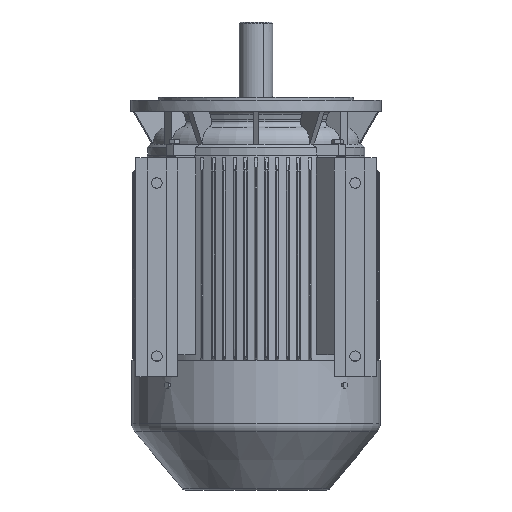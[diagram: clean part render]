
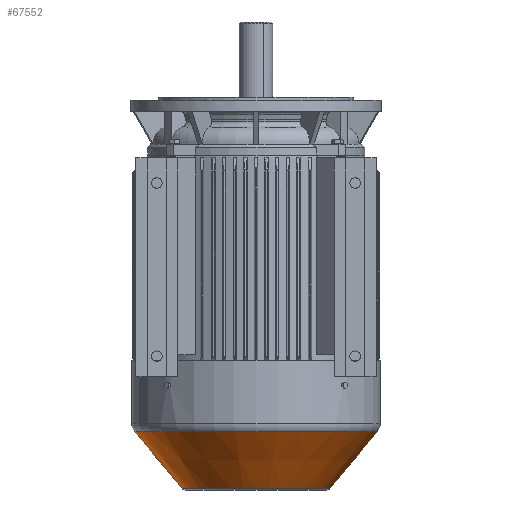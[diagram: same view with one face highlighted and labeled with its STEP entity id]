
A CAD part, front view. The second image highlights one B-rep face of the part: STEP entity #67552.
In plain terms, the highlighted conical face has half-angle 40 degrees and reference radius 132.173 mm.
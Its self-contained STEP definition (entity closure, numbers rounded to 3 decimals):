
#1660 = AXIS2_PLACEMENT_3D ( 'NONE', #7060, #7057, #7053 ) ;
#7053 = DIRECTION ( 'NONE',  ( 0., -1., 0. ) ) ;
#7057 = DIRECTION ( 'NONE',  ( -1., 0., 0. ) ) ;
#7060 = CARTESIAN_POINT ( 'NONE',  ( 230.41, 0., 0. ) ) ;
#32630 = CIRCLE ( 'NONE', #61036, 132.173 ) ;
#32632 = CIRCLE ( 'NONE', #61037, 217.853 ) ;
#32918 = LINE ( 'NONE', #83727, #32922 ) ;
#32922 = VECTOR ( 'NONE', #83720, 1000. ) ;
#33035 = LINE ( 'NONE', #75929, #33037 ) ;
#33037 = VECTOR ( 'NONE', #75928, 1000. ) ;
#37064 = CARTESIAN_POINT ( 'NONE',  ( 128.301, 217.853, 0. ) ) ;
#37066 = CARTESIAN_POINT ( 'NONE',  ( 230.41, 132.173, 0. ) ) ;
#37089 = CARTESIAN_POINT ( 'NONE',  ( 230.41, -132.173, 0. ) ) ;
#37090 = CARTESIAN_POINT ( 'NONE',  ( 128.301, -217.853, 0. ) ) ;
#43585 = VERTEX_POINT ( 'NONE', #37064 ) ;
#43591 = VERTEX_POINT ( 'NONE', #37066 ) ;
#43592 = VERTEX_POINT ( 'NONE', #37089 ) ;
#43593 = VERTEX_POINT ( 'NONE', #37090 ) ;
#48933 = EDGE_CURVE ( 'NONE', #43591, #43592, #32630, .T. ) ;
#48935 = EDGE_CURVE ( 'NONE', #43585, #43593, #32632, .T. ) ;
#49306 = EDGE_CURVE ( 'NONE', #43592, #43593, #32918, .T. ) ;
#49471 = EDGE_CURVE ( 'NONE', #43591, #43585, #33035, .T. ) ;
#51240 = CARTESIAN_POINT ( 'NONE',  ( 230.41, 0., 0. ) ) ;
#51241 = DIRECTION ( 'NONE',  ( -1., 0., 0. ) ) ;
#51242 = DIRECTION ( 'NONE',  ( 0., -1., 0. ) ) ;
#51244 = CARTESIAN_POINT ( 'NONE',  ( 128.301, 0., 0. ) ) ;
#51245 = DIRECTION ( 'NONE',  ( -1., 0., 0. ) ) ;
#51246 = DIRECTION ( 'NONE',  ( 0., -1., 0. ) ) ;
#61036 = AXIS2_PLACEMENT_3D ( 'NONE', #51240, #51241, #51242 ) ;
#61037 = AXIS2_PLACEMENT_3D ( 'NONE', #51244, #51245, #51246 ) ;
#67552 = ADVANCED_FACE ( 'NONE', ( #89701 ), #89705, .T. ) ;
#75928 = DIRECTION ( 'NONE',  ( -0.766, 0.643, 0. ) ) ;
#75929 = CARTESIAN_POINT ( 'NONE',  ( 230.41, 132.173, 0. ) ) ;
#82677 = ORIENTED_EDGE ( 'NONE', *, *, #48935, .F. ) ;
#82679 = ORIENTED_EDGE ( 'NONE', *, *, #49306, .T. ) ;
#82681 = ORIENTED_EDGE ( 'NONE', *, *, #48933, .T. ) ;
#82683 = ORIENTED_EDGE ( 'NONE', *, *, #49471, .F. ) ;
#83720 = DIRECTION ( 'NONE',  ( -0.766, -0.643, 0. ) ) ;
#83727 = CARTESIAN_POINT ( 'NONE',  ( 230.41, -132.173, 0. ) ) ;
#86976 = EDGE_LOOP ( 'NONE', ( #82683, #82681, #82679, #82677 ) ) ;
#89701 = FACE_OUTER_BOUND ( 'NONE', #86976, .T. ) ;
#89705 = CONICAL_SURFACE ( 'NONE', #1660, 132.173, 0.698 ) ;
